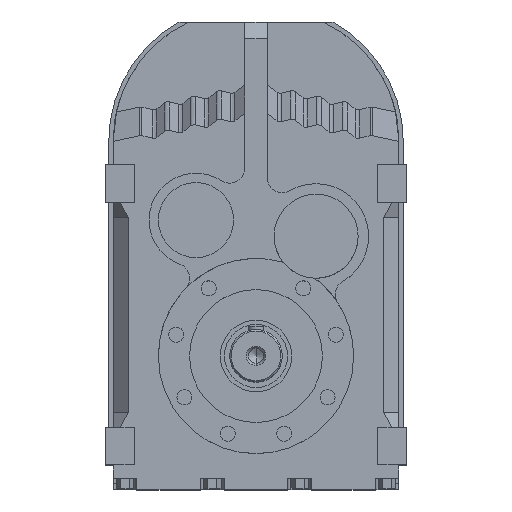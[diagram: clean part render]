
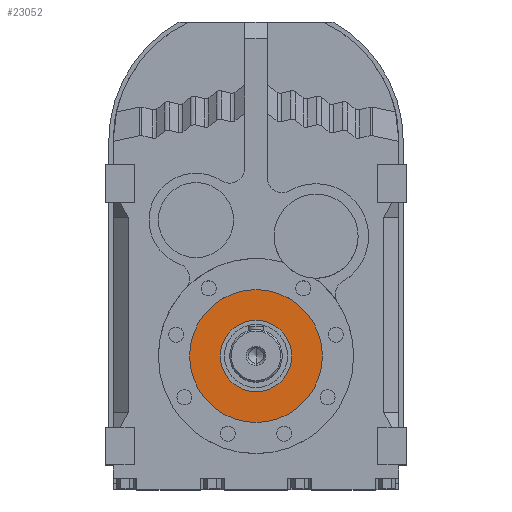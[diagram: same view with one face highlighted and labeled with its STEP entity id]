
A CAD part, top view. The second image highlights one B-rep face of the part: STEP entity #23052.
In plain terms, the highlighted planar face has unit normal (0, 0, 1).
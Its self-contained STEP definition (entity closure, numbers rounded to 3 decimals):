
#17781 = CYLINDRICAL_SURFACE('',#17782,88.5);
#17782 = AXIS2_PLACEMENT_3D('',#17783,#17784,#17785);
#17783 = CARTESIAN_POINT('',(0.,-285.,110.123));
#17784 = DIRECTION('',(0.,0.,1.));
#17785 = DIRECTION('',(1.,0.,0.));
#17807 = CYLINDRICAL_SURFACE('',#17808,88.5);
#17808 = AXIS2_PLACEMENT_3D('',#17809,#17810,#17811);
#17809 = CARTESIAN_POINT('',(0.,-285.,110.123));
#17810 = DIRECTION('',(0.,0.,1.));
#17811 = DIRECTION('',(1.,0.,0.));
#21506 = VERTEX_POINT('',#21507);
#21507 = CARTESIAN_POINT('',(-88.5,-285.,268.5));
#21528 = VERTEX_POINT('',#21529);
#21529 = CARTESIAN_POINT('',(88.5,-285.,268.5));
#21548 = EDGE_CURVE('',#21528,#21506,#21549,.T.);
#21549 = SURFACE_CURVE('',#21550,(#21555,#21561),.PCURVE_S1.);
#21550 = CIRCLE('',#21551,88.5);
#21551 = AXIS2_PLACEMENT_3D('',#21552,#21553,#21554);
#21552 = CARTESIAN_POINT('',(0.,-285.,268.5));
#21553 = DIRECTION('',(0.,0.,1.));
#21554 = DIRECTION('',(1.,0.,0.));
#21555 = PCURVE('',#17781,#21556);
#21556 = DEFINITIONAL_REPRESENTATION('',(#21557),#21560);
#21557 = B_SPLINE_CURVE_WITH_KNOTS('',1,(#21558,#21559),.UNSPECIFIED.,
  .F.,.F.,(2,2),(0.,3.142),.PIECEWISE_BEZIER_KNOTS.);
#21558 = CARTESIAN_POINT('',(0.,158.377));
#21559 = CARTESIAN_POINT('',(3.142,158.377));
#21560 = ( GEOMETRIC_REPRESENTATION_CONTEXT(2) 
PARAMETRIC_REPRESENTATION_CONTEXT() REPRESENTATION_CONTEXT('2D SPACE',''
  ) );
#21561 = PCURVE('',#21562,#21567);
#21562 = PLANE('',#21563);
#21563 = AXIS2_PLACEMENT_3D('',#21564,#21565,#21566);
#21564 = CARTESIAN_POINT('',(0.,-196.5,268.5));
#21565 = DIRECTION('',(0.,0.,1.));
#21566 = DIRECTION('',(1.,0.,0.));
#21567 = DEFINITIONAL_REPRESENTATION('',(#21568),#21572);
#21568 = CIRCLE('',#21569,88.5);
#21569 = AXIS2_PLACEMENT_2D('',#21570,#21571);
#21570 = CARTESIAN_POINT('',(0.,-88.5));
#21571 = DIRECTION('',(1.,0.));
#21572 = ( GEOMETRIC_REPRESENTATION_CONTEXT(2) 
PARAMETRIC_REPRESENTATION_CONTEXT() REPRESENTATION_CONTEXT('2D SPACE',''
  ) );
#21822 = EDGE_CURVE('',#21506,#21528,#21823,.T.);
#21823 = SURFACE_CURVE('',#21824,(#21829,#21835),.PCURVE_S1.);
#21824 = CIRCLE('',#21825,88.5);
#21825 = AXIS2_PLACEMENT_3D('',#21826,#21827,#21828);
#21826 = CARTESIAN_POINT('',(0.,-285.,268.5));
#21827 = DIRECTION('',(0.,0.,1.));
#21828 = DIRECTION('',(1.,0.,0.));
#21829 = PCURVE('',#17807,#21830);
#21830 = DEFINITIONAL_REPRESENTATION('',(#21831),#21834);
#21831 = B_SPLINE_CURVE_WITH_KNOTS('',1,(#21832,#21833),.UNSPECIFIED.,
  .F.,.F.,(2,2),(3.142,6.283),.PIECEWISE_BEZIER_KNOTS.);
#21832 = CARTESIAN_POINT('',(3.142,158.377));
#21833 = CARTESIAN_POINT('',(6.283,158.377));
#21834 = ( GEOMETRIC_REPRESENTATION_CONTEXT(2) 
PARAMETRIC_REPRESENTATION_CONTEXT() REPRESENTATION_CONTEXT('2D SPACE',''
  ) );
#21835 = PCURVE('',#21562,#21836);
#21836 = DEFINITIONAL_REPRESENTATION('',(#21837),#21841);
#21837 = CIRCLE('',#21838,88.5);
#21838 = AXIS2_PLACEMENT_2D('',#21839,#21840);
#21839 = CARTESIAN_POINT('',(0.,-88.5));
#21840 = DIRECTION('',(1.,0.));
#21841 = ( GEOMETRIC_REPRESENTATION_CONTEXT(2) 
PARAMETRIC_REPRESENTATION_CONTEXT() REPRESENTATION_CONTEXT('2D SPACE',''
  ) );
#23052 = ADVANCED_FACE('',(#23053,#23057),#21562,.T.);
#23053 = FACE_BOUND('',#23054,.T.);
#23054 = EDGE_LOOP('',(#23055,#23056));
#23055 = ORIENTED_EDGE('',*,*,#21548,.T.);
#23056 = ORIENTED_EDGE('',*,*,#21822,.T.);
#23057 = FACE_BOUND('',#23058,.T.);
#23058 = EDGE_LOOP('',(#23059,#23089));
#23059 = ORIENTED_EDGE('',*,*,#23060,.F.);
#23060 = EDGE_CURVE('',#23061,#23063,#23065,.T.);
#23061 = VERTEX_POINT('',#23062);
#23062 = CARTESIAN_POINT('',(47.5,-285.,268.5));
#23063 = VERTEX_POINT('',#23064);
#23064 = CARTESIAN_POINT('',(-47.5,-285.,268.5));
#23065 = SURFACE_CURVE('',#23066,(#23071,#23078),.PCURVE_S1.);
#23066 = CIRCLE('',#23067,47.5);
#23067 = AXIS2_PLACEMENT_3D('',#23068,#23069,#23070);
#23068 = CARTESIAN_POINT('',(0.,-285.,268.5));
#23069 = DIRECTION('',(0.,0.,1.));
#23070 = DIRECTION('',(1.,0.,0.));
#23071 = PCURVE('',#21562,#23072);
#23072 = DEFINITIONAL_REPRESENTATION('',(#23073),#23077);
#23073 = CIRCLE('',#23074,47.5);
#23074 = AXIS2_PLACEMENT_2D('',#23075,#23076);
#23075 = CARTESIAN_POINT('',(0.,-88.5));
#23076 = DIRECTION('',(1.,0.));
#23077 = ( GEOMETRIC_REPRESENTATION_CONTEXT(2) 
PARAMETRIC_REPRESENTATION_CONTEXT() REPRESENTATION_CONTEXT('2D SPACE',''
  ) );
#23078 = PCURVE('',#23079,#23084);
#23079 = CYLINDRICAL_SURFACE('',#23080,47.5);
#23080 = AXIS2_PLACEMENT_3D('',#23081,#23082,#23083);
#23081 = CARTESIAN_POINT('',(0.,-285.,110.123));
#23082 = DIRECTION('',(0.,0.,1.));
#23083 = DIRECTION('',(1.,0.,0.));
#23084 = DEFINITIONAL_REPRESENTATION('',(#23085),#23088);
#23085 = B_SPLINE_CURVE_WITH_KNOTS('',1,(#23086,#23087),.UNSPECIFIED.,
  .F.,.F.,(2,2),(0.,3.142),.PIECEWISE_BEZIER_KNOTS.);
#23086 = CARTESIAN_POINT('',(0.,158.377));
#23087 = CARTESIAN_POINT('',(3.142,158.377));
#23088 = ( GEOMETRIC_REPRESENTATION_CONTEXT(2) 
PARAMETRIC_REPRESENTATION_CONTEXT() REPRESENTATION_CONTEXT('2D SPACE',''
  ) );
#23089 = ORIENTED_EDGE('',*,*,#23090,.F.);
#23090 = EDGE_CURVE('',#23063,#23061,#23091,.T.);
#23091 = SURFACE_CURVE('',#23092,(#23097,#23104),.PCURVE_S1.);
#23092 = CIRCLE('',#23093,47.5);
#23093 = AXIS2_PLACEMENT_3D('',#23094,#23095,#23096);
#23094 = CARTESIAN_POINT('',(0.,-285.,268.5));
#23095 = DIRECTION('',(0.,0.,1.));
#23096 = DIRECTION('',(1.,0.,0.));
#23097 = PCURVE('',#21562,#23098);
#23098 = DEFINITIONAL_REPRESENTATION('',(#23099),#23103);
#23099 = CIRCLE('',#23100,47.5);
#23100 = AXIS2_PLACEMENT_2D('',#23101,#23102);
#23101 = CARTESIAN_POINT('',(0.,-88.5));
#23102 = DIRECTION('',(1.,0.));
#23103 = ( GEOMETRIC_REPRESENTATION_CONTEXT(2) 
PARAMETRIC_REPRESENTATION_CONTEXT() REPRESENTATION_CONTEXT('2D SPACE',''
  ) );
#23104 = PCURVE('',#23105,#23110);
#23105 = CYLINDRICAL_SURFACE('',#23106,47.5);
#23106 = AXIS2_PLACEMENT_3D('',#23107,#23108,#23109);
#23107 = CARTESIAN_POINT('',(0.,-285.,110.123));
#23108 = DIRECTION('',(0.,0.,1.));
#23109 = DIRECTION('',(1.,0.,0.));
#23110 = DEFINITIONAL_REPRESENTATION('',(#23111),#23114);
#23111 = B_SPLINE_CURVE_WITH_KNOTS('',1,(#23112,#23113),.UNSPECIFIED.,
  .F.,.F.,(2,2),(3.142,6.283),.PIECEWISE_BEZIER_KNOTS.);
#23112 = CARTESIAN_POINT('',(3.142,158.377));
#23113 = CARTESIAN_POINT('',(6.283,158.377));
#23114 = ( GEOMETRIC_REPRESENTATION_CONTEXT(2) 
PARAMETRIC_REPRESENTATION_CONTEXT() REPRESENTATION_CONTEXT('2D SPACE',''
  ) );
